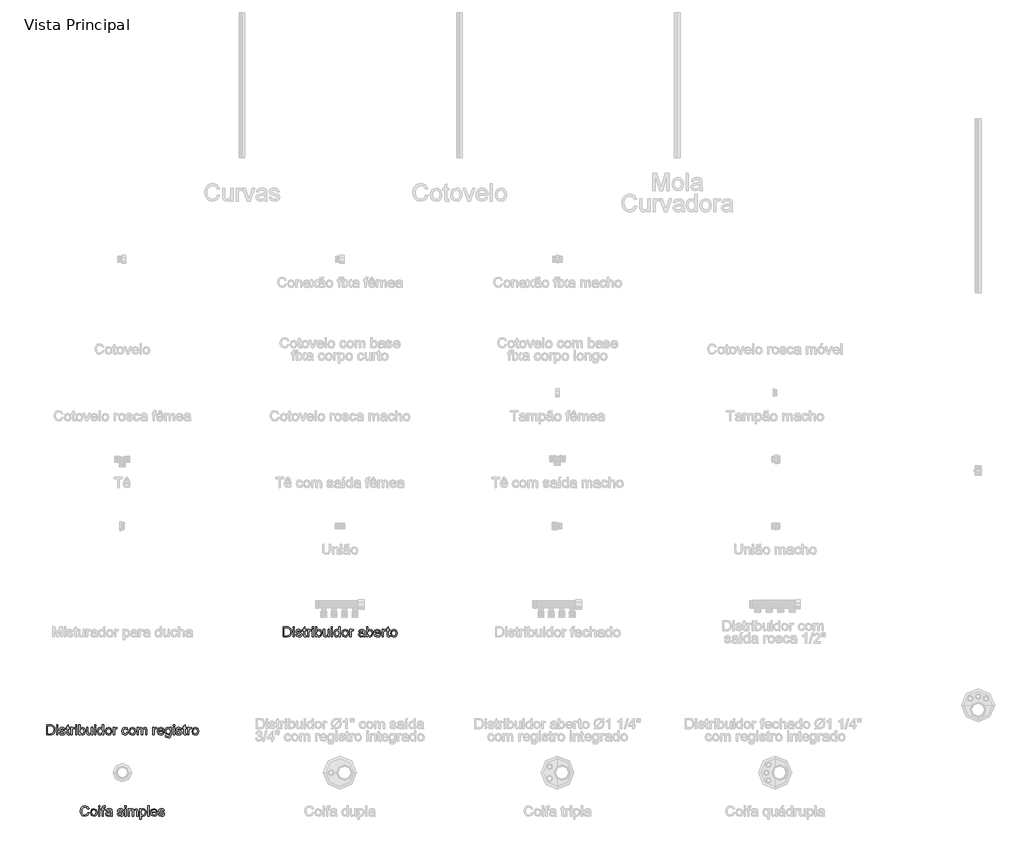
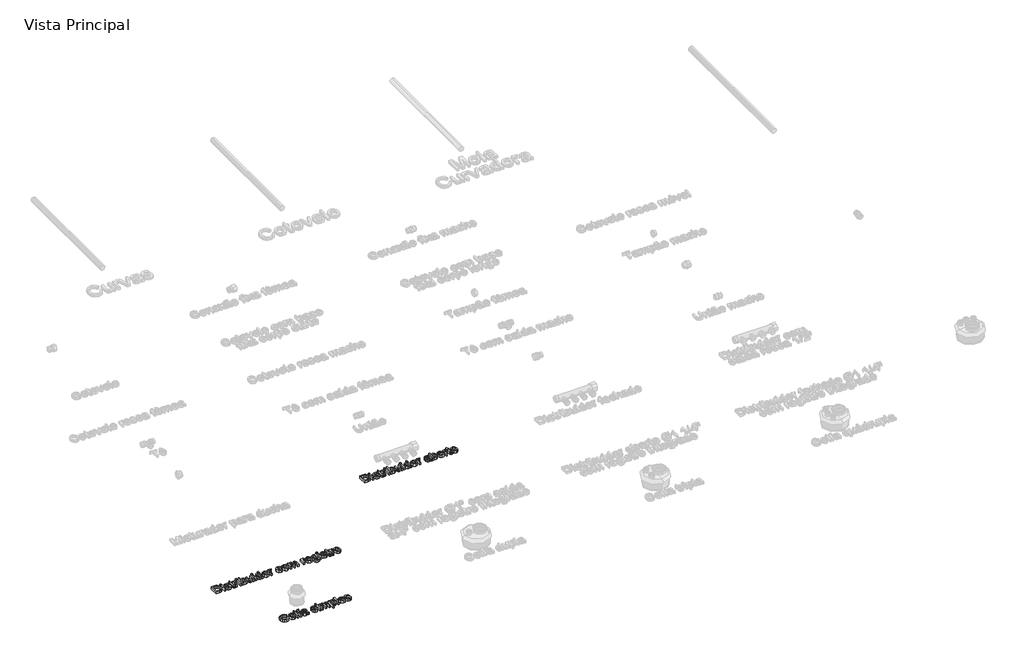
# One storey, part 2 of 12: 3 proxies.
"""IFC4 building model written with IfcOpenShell, lengths in millimetres."""

import ifcopenshell
import ifcopenshell.guid

model = None  # the IFC model being written
_history = None  # IfcOwnerHistory: only IFC2X3 demands one
_inside = {}  # id of a spatial element -> (the spatial element, [elements in it])
_under = {}  # id of a project, library or spatial element -> (it, [spatial elements below it])
_declared = {}  # id of a project -> (the project, [libraries it declares])
_typed = {}  # id of a type object -> (the type object, [elements of that type])
_made_of = {}  # id of a material, layer set ... -> (it, [elements and type objects made of it])


def new_model(schema):
    """Start an empty IFC model of exactly this schema.

    Asked for "IFC4X3", IfcOpenShell would pick the latest addendum, in which some entities
    have other attributes; the version numbers below select the first issue.
    IFC2X3 requires an IfcOwnerHistory on every rooted entity: one is made here for all.
    """
    global model, _history
    if schema == "IFC4X3":
        model = ifcopenshell.file(schema_version=(4, 3, 0, 0))
    else:
        model = ifcopenshell.file(schema=schema)
    _inside.clear()
    _under.clear()
    _declared.clear()
    _typed.clear()
    _made_of.clear()
    _history = None
    if model.schema == "IFC2X3":
        org = make("IfcOrganization", Name="unknown")
        user = make(
            "IfcPersonAndOrganization",
            ThePerson=make("IfcPerson", FamilyName="unknown"),
            TheOrganization=org,
        )
        app = make(
            "IfcApplication",
            ApplicationDeveloper=org,
            Version="unknown",
            ApplicationFullName="unknown",
            ApplicationIdentifier="unknown",
        )
        _history = make(
            "IfcOwnerHistory",
            OwningUser=user,
            OwningApplication=app,
            ChangeAction="ADDED",
            CreationDate=0,
        )
    return model


def make(cls, **values):
    """One entity of the class cls with the attributes given. An attribute that is None is left unset."""
    return model.create_entity(
        cls, **{name: value for name, value in values.items() if value is not None}
    )


def rooted(cls, **values):
    """An entity with a GlobalId (a new one), such as an element, a storey or a relation."""
    return make(cls, GlobalId=ifcopenshell.guid.new(), OwnerHistory=_history, **values)


def si_unit(unit_type, name, prefix=None):
    """IfcSIUnit, for example si_unit("LENGTHUNIT", "METRE", prefix="MILLI")."""
    return make("IfcSIUnit", UnitType=unit_type, Prefix=prefix, Name=name)


def assignment(units):
    """IfcUnitAssignment: the units of a project."""
    return None if units is None else make("IfcUnitAssignment", Units=units)


def point(xyz):
    """IfcCartesianPoint."""
    return None if xyz is None else make("IfcCartesianPoint", Coordinates=xyz)


def direction(xyz):
    """IfcDirection."""
    return None if xyz is None else make("IfcDirection", DirectionRatios=xyz)


def frame(location, z_axis=None, x_axis=None):
    """IfcAxis2Placement3D, a coordinate frame: its origin and axes. An axis left out is left unset."""
    return make(
        "IfcAxis2Placement3D",
        Location=point(location),
        Axis=direction(z_axis),
        RefDirection=direction(x_axis),
    )


def origin():
    """The frame at (0, 0, 0) with its axes left unset."""
    return frame((0.0, 0.0, 0.0))


def origin_with_axes():
    """The frame at (0, 0, 0) with the z axis (0, 0, 1) and the x axis (1, 0, 0) written out."""
    return frame((0.0, 0.0, 0.0), z_axis=(0.0, 0.0, 1.0), x_axis=(1.0, 0.0, 0.0))


def place(relative_to, where):
    """IfcLocalPlacement: puts the frame where relative to a parent placement (None: the world)."""
    return make(
        "IfcLocalPlacement", PlacementRelTo=relative_to, RelativePlacement=where
    )


def context(
    kind, dimensions, precision=None, world=None, true_north=None, identifier=None
):
    """IfcGeometricRepresentationContext, for example the 3D "Model" context."""
    return make(
        "IfcGeometricRepresentationContext",
        ContextIdentifier=identifier,
        ContextType=kind,
        CoordinateSpaceDimension=dimensions,
        Precision=precision,
        WorldCoordinateSystem=world,
        TrueNorth=true_north,
    )


def project(units=None, contexts=None):
    """IfcProject with its units and contexts."""
    return rooted(
        "IfcProject",
        Name="project",
        RepresentationContexts=contexts,
        UnitsInContext=assignment(units),
    )


def spatial(cls, under=None, at=None, **own):
    """A site, building, storey or space (cls), placed at a placement, below another one or the project."""
    s = rooted(cls, ObjectPlacement=at, **own)
    if under is not None:
        _under.setdefault(under.id(), (under, []))[1].append(s)
    return s


def polyline(points):
    """IfcPolyline through the points."""
    return make("IfcPolyline", Points=[point(p) for p in points])


def outline(outer, holes=None, kind="AREA"):
    """IfcArbitraryClosedProfileDef: a profile drawn as a closed curve; with holes, ...WithVoids."""
    if holes is None:
        return make("IfcArbitraryClosedProfileDef", ProfileType=kind, OuterCurve=outer)
    return make(
        "IfcArbitraryProfileDefWithVoids",
        ProfileType=kind,
        OuterCurve=outer,
        InnerCurves=holes,
    )


def extrude(swept, where, along, depth):
    """IfcExtrudedAreaSolid: the profile swept, set in the frame where, extruded along a direction by depth."""
    return make(
        "IfcExtrudedAreaSolid",
        SweptArea=swept,
        Position=where,
        ExtrudedDirection=direction(along),
        Depth=depth,
    )


def shape(context_of_items, identifier, shape_type, items):
    """IfcShapeRepresentation: the items that make up one representation, for example the "Body"."""
    return make(
        "IfcShapeRepresentation",
        ContextOfItems=context_of_items,
        RepresentationIdentifier=identifier,
        RepresentationType=shape_type,
        Items=items,
    )


def made_of(thing, what):
    """Note that an element or type object is made of a material, layer set ...; save() writes the relation."""
    if what is not None:
        _made_of.setdefault(what.id(), (what, []))[1].append(thing)
    return thing


def element(
    cls,
    number,
    at=None,
    inside=None,
    cuts=None,
    type_object=None,
    material=None,
    context=None,
    identifier="Body",
    shape_type=None,
    held_by="IfcProductDefinitionShape",
    body=None,
    shapes=None,
    **own,
):
    """One element of the class cls, such as IfcWall. Its Tag is "e" and its number.

    at: its placement. inside: the storey or other place that contains it. cuts: it is an
    opening in that element (IfcRelVoidsElement). A single representation is given by context,
    identifier, shape_type and body (its items); several are given by shapes. held_by: the class
    of the entity that holds the representations. save() writes the other relations.
    """
    e = rooted(cls, Tag="e%d" % number, ObjectPlacement=at, **own)
    if body is not None:
        shapes = [shape(context, identifier, shape_type, body)]
    if shapes is not None:
        e.Representation = make(held_by, Representations=shapes)
    if inside is not None:
        _inside.setdefault(inside.id(), (inside, []))[1].append(e)
    if cuts is not None:
        rooted(
            "IfcRelVoidsElement", RelatingBuildingElement=cuts, RelatedOpeningElement=e
        )
    if type_object is not None:
        _typed.setdefault(type_object.id(), (type_object, []))[1].append(e)
    return made_of(e, material)


def aggregate(whole, parts):
    """IfcRelAggregates: a whole, such as a stair, and the parts it consists of."""
    return rooted("IfcRelAggregates", RelatingObject=whole, RelatedObjects=parts)


def save(model, path):
    """Write the relations noted so far, then the file.

    IfcRelAggregates (storeys below a building ...), IfcRelContainedInSpatialStructure (elements
    in a storey), IfcRelDefinesByType, IfcRelAssociatesMaterial and IfcRelDeclares: one each for
    every whole, place, type object, material and project.
    """
    for whole, parts in _under.values():
        aggregate(whole, parts)
    for where, things in _inside.values():
        rooted(
            "IfcRelContainedInSpatialStructure",
            RelatedElements=things,
            RelatingStructure=where,
        )
    for kind, things in _typed.values():
        rooted("IfcRelDefinesByType", RelatedObjects=things, RelatingType=kind)
    for what, things in _made_of.values():
        rooted("IfcRelAssociatesMaterial", RelatedObjects=things, RelatingMaterial=what)
    for by, libraries in _declared.values():
        rooted("IfcRelDeclares", RelatingContext=by, RelatedDefinitions=libraries)
    model.write(path)


model = new_model("IFC4")

# Units and contexts
model_context = context("Model", 3, world=origin())
ifc_project = project(units=[si_unit("LENGTHUNIT", "METRE", prefix="MILLI")], contexts=[model_context])

# Site, building, storey
site = spatial("IfcSite", under=ifc_project)
building = spatial("IfcBuilding", under=site)
storey = spatial("IfcBuildingStorey", under=building, Name="Vista Principal", Elevation=0.0)

# Proxies
placement = place(None, origin())
element("IfcBuildingElementProxy", 1, Name="Legenda", ObjectType="Legenda", at=placement, inside=storey, context=model_context, shape_type="SweptSolid", body=[
    extrude(outline(polyline([(-526.4387958, -1231.7668427), (-526.4387958, -1196.6071341), (-514.3097265, -1196.6071341), (-508.0348859, -1197.113585), (-502.8673701, -1199.6286716), (-498.7041722, -1205.6374108), (-497.3221622, -1213.9981423), (-498.2578087, -1221.0927466), (-500.6613044, -1226.2130508), (-503.871688, -1229.4019746), (-508.0735135, -1231.1659688), (-513.7260204, -1231.7668427), (-526.4387958, -1231.7668427)]), holes=[polyline([(-522.0438323, -1227.3718791), (-514.2668069, -1227.3718791), (-508.6100081, -1226.7366695), (-505.3481211, -1224.9426317), (-502.6742321, -1220.5777118), (-501.7171258, -1213.929471), (-503.5927108, -1205.6030752), (-508.1550607, -1201.7059786), (-514.3869817, -1201.0020977), (-522.0438323, -1201.0020977), (-522.0438323, -1227.3718791)])]), origin_with_axes(), (0.0, 0.0, 1.0), 10.0),
    extrude(outline(polyline([(-491.8284577, -1231.7668427), (-491.8284577, -1205.9464317), (-487.4334942, -1205.9464317), (-487.4334942, -1231.7668427), (-491.8284577, -1231.7668427)])), origin_with_axes(), (0.0, 0.0, 1.0), 10.0),
    extrude(outline(polyline([(-491.8284577, -1201.0020977), (-491.8284577, -1196.6071341), (-487.4334942, -1196.6071341), (-487.4334942, -1201.0020977), (-491.8284577, -1201.0020977)])), origin_with_axes(), (0.0, 0.0, 1.0), 10.0),
    extrude(outline(polyline([(-482.4891601, -1224.0756564), (-478.0941966, -1223.526286), (-476.0598091, -1226.788173), (-471.3987443, -1227.9212496), (-466.9179416, -1226.8825961), (-465.4586763, -1224.4447647), (-466.9265255, -1222.4704647), (-471.4502477, -1221.2172133), (-478.0684448, -1219.0669431), (-480.9569316, -1216.5561485), (-481.9397897, -1213.0109923), (-481.1500697, -1209.7362294), (-478.9955075, -1207.2340187), (-476.2014437, -1205.9335558), (-472.4202299, -1205.3970613), (-467.072452, -1206.2597445), (-463.6732224, -1208.5945689), (-462.1624536, -1212.5388771), (-466.5574172, -1213.0882475), (-468.2098205, -1210.663292), (-472.0768734, -1209.7920248), (-476.2829909, -1210.6246644), (-477.5448261, -1212.5646288), (-475.38168, -1214.8136141), (-471.5961743, -1215.7492606), (-465.1453635, -1217.8179837), (-462.1495778, -1220.161392), (-461.0637127, -1223.9812334), (-462.3384239, -1228.1873509), (-466.0166307, -1231.238932), (-471.4588317, -1232.3162131), (-479.1242662, -1230.2389061), (-482.4891601, -1224.0756564)])), origin_with_axes(), (0.0, 0.0, 1.0), 10.0),
    extrude(outline(polyline([(-446.7800812, -1228.1015117), (-446.2307107, -1231.8956014), (-449.5183495, -1232.3162131), (-453.2008482, -1231.5865805), (-455.0378057, -1229.6723679), (-455.5700083, -1224.6851143), (-455.5700083, -1210.3413953), (-458.866231, -1210.3413953), (-458.866231, -1205.9464317), (-455.5700083, -1205.9464317), (-455.5700083, -1199.6715911), (-451.1750447, -1197.0878333), (-451.1750447, -1205.9464317), (-446.7800812, -1205.9464317), (-446.7800812, -1210.3413953), (-451.1750447, -1210.3413953), (-451.1750447, -1224.5563556), (-450.9432791, -1226.8225087), (-446.7800812, -1228.1015117)])), origin_with_axes(), (0.0, 0.0, 1.0), 10.0),
    extrude(outline(polyline([(-442.3851176, -1231.7668427), (-442.3851176, -1205.9464317), (-438.5395245, -1205.9464317), (-438.5395245, -1209.7662731), (-435.8098401, -1206.2468687), (-433.0629878, -1205.3970613), (-428.6508564, -1206.7533196), (-430.1187056, -1210.6933357), (-433.2089143, -1209.7920248), (-435.6939572, -1210.6590001), (-437.2776892, -1213.0624958), (-437.990154, -1218.1956759), (-437.990154, -1231.7668427), (-442.3851176, -1231.7668427)])), origin_with_axes(), (0.0, 0.0, 1.0), 10.0),
    extrude(outline(polyline([(-425.9040042, -1231.7668427), (-425.9040042, -1205.9464317), (-421.5090406, -1205.9464317), (-421.5090406, -1231.7668427), (-425.9040042, -1231.7668427)])), origin_with_axes(), (0.0, 0.0, 1.0), 10.0),
    extrude(outline(polyline([(-425.9040042, -1201.0020977), (-425.9040042, -1196.6071341), (-421.5090406, -1196.6071341), (-421.5090406, -1201.0020977), (-425.9040042, -1201.0020977)])), origin_with_axes(), (0.0, 0.0, 1.0), 10.0),
    extrude(outline(polyline([(-410.5216317, -1231.7668427), (-414.9165953, -1231.7668427), (-414.9165953, -1196.6071341), (-410.5216317, -1196.6071341), (-410.5216317, -1209.6460983), (-403.6201655, -1205.3970613), (-399.216618, -1206.3541676), (-395.8002205, -1209.0452244), (-393.7014537, -1213.2298821), (-392.9417774, -1218.4703611), (-396.0877816, -1228.7023857), (-403.6459172, -1232.3162131), (-410.5216317, -1227.6551482), (-410.5216317, -1231.7668427)]), holes=[polyline([(-410.5216317, -1218.676375), (-409.3198839, -1224.8224569), (-404.0236094, -1227.9212496), (-399.319625, -1225.6379286), (-397.336741, -1218.8308855), (-399.2380778, -1211.9980905), (-403.8347633, -1209.7920248), (-408.5387478, -1212.0753458), (-410.5216317, -1218.676375)])]), origin_with_axes(), (0.0, 0.0, 1.0), 10.0),
    extrude(outline(polyline([(-371.51633, -1231.7668427), (-371.51633, -1227.3289595), (-379.4478658, -1232.3162131), (-383.5810201, -1231.440654), (-386.4308793, -1229.2431722), (-387.739926, -1226.0070369), (-387.9974434, -1221.9210942), (-387.9974434, -1205.9464317), (-383.6024798, -1205.9464317), (-383.6024798, -1219.8523711), (-383.3363785, -1224.3331738), (-381.5981361, -1226.9641432), (-378.3233732, -1227.9212496), (-374.6537503, -1226.9426835), (-372.2287948, -1224.2773784), (-371.51633, -1219.3802559), (-371.51633, -1205.9464317), (-367.1213665, -1205.9464317), (-367.1213665, -1231.7668427), (-371.51633, -1231.7668427)])), origin_with_axes(), (0.0, 0.0, 1.0), 10.0),
    extrude(outline(polyline([(-361.0782916, -1201.0020977), (-361.0782916, -1196.6071341), (-356.683328, -1196.6071341), (-356.683328, -1201.0020977), (-361.0782916, -1201.0020977)])), origin_with_axes(), (0.0, 0.0, 1.0), 10.0),
    extrude(outline(polyline([(-361.0782916, -1231.7668427), (-361.0782916, -1205.9464317), (-356.683328, -1205.9464317), (-356.683328, -1231.7668427), (-361.0782916, -1231.7668427)])), origin_with_axes(), (0.0, 0.0, 1.0), 10.0),
    extrude(outline(polyline([(-334.1591397, -1231.7668427), (-334.1591397, -1227.6208126), (-341.0863577, -1232.3162131), (-346.5285586, -1230.6165983), (-350.3741518, -1225.8739863), (-351.738994, -1218.8823889), (-350.4814507, -1211.8864997), (-346.7131128, -1207.0709243), (-341.1035255, -1205.3970613), (-337.0519184, -1206.5945172), (-334.1591397, -1209.7061857), (-334.1591397, -1196.6071341), (-329.7641761, -1196.6071341), (-329.7641761, -1231.7668427), (-334.1591397, -1231.7668427)]), holes=[polyline([(-347.3440304, -1218.8652211), (-345.3611464, -1225.6679723), (-340.6829137, -1227.9212496), (-336.0604765, -1225.7709793), (-334.1591397, -1219.1999937), (-336.0948121, -1212.0667618), (-340.8631759, -1209.7920248), (-345.4899051, -1211.9766308), (-347.3440304, -1218.8652211)])]), origin_with_axes(), (0.0, 0.0, 1.0), 10.0),
    extrude(outline(polyline([(-324.2704717, -1218.8566372), (-320.4677981, -1208.2555044), (-312.7251084, -1205.3970613), (-304.4201723, -1208.8778381), (-301.1969129, -1218.4961128), (-302.6218425, -1226.3160578), (-306.7721646, -1230.7410651), (-312.7251084, -1232.3162131), (-321.0815479, -1228.8483122), (-324.2704717, -1218.8566372)]), holes=[polyline([(-319.8755081, -1218.8480533), (-317.8411207, -1225.6593884), (-312.7251084, -1227.9212496), (-307.6262639, -1225.6465126), (-305.5918765, -1218.7107107), (-307.6391398, -1212.053886), (-312.7251084, -1209.7920248), (-317.8411207, -1212.0453021), (-319.8755081, -1218.8480533)])]), origin_with_axes(), (0.0, 0.0, 1.0), 10.0),
    extrude(outline(polyline([(-296.2525789, -1231.7668427), (-296.2525789, -1205.9464317), (-292.4069858, -1205.9464317), (-292.4069858, -1209.7662731), (-289.6773014, -1206.2468687), (-286.9304492, -1205.3970613), (-282.5183178, -1206.7533196), (-283.9861669, -1210.6933357), (-287.0763757, -1209.7920248), (-289.5614186, -1210.6590001), (-291.1451505, -1213.0624958), (-291.8576153, -1218.1956759), (-291.8576153, -1231.7668427), (-296.2525789, -1231.7668427)])), origin_with_axes(), (0.0, 0.0, 1.0), 10.0),
    extrude(outline(polyline([(-249.556091, -1228.47062), (-253.8180039, -1231.4492379), (-258.5262803, -1232.3162131), (-264.9084198, -1230.2303222), (-267.1359453, -1224.8997121), (-266.2947218, -1221.4232273), (-264.0843641, -1218.8995568), (-261.0070312, -1217.4574593), (-257.2043577, -1216.796498), (-249.5818427, -1215.2857293), (-250.7664228, -1211.062444), (-255.6249176, -1209.7920248), (-260.0713847, -1210.6375403), (-262.1916113, -1213.637618), (-266.5865748, -1213.0882475), (-264.685238, -1208.7962909), (-260.8568127, -1206.2812043), (-255.0583794, -1205.3970613), (-249.7320612, -1206.1781974), (-246.7233996, -1208.1396215), (-245.3757253, -1211.1225314), (-245.1611274, -1214.9681245), (-245.1611274, -1220.4360772), (-244.9379457, -1228.071468), (-244.0623865, -1231.7668427), (-248.4573501, -1231.7668427), (-249.556091, -1228.47062)]), holes=[polyline([(-249.5689669, -1220.3030266), (-256.6464033, -1221.0283672), (-260.4276171, -1221.740832), (-262.1401078, -1222.8996603), (-262.7409817, -1224.5906912), (-261.4319349, -1226.9684352), (-257.5906338, -1227.9212496), (-253.1441667, -1226.8697202), (-250.2771397, -1224.3245899), (-249.5689669, -1220.3030266)])]), origin_with_axes(), (0.0, 0.0, 1.0), 10.0),
    extrude(outline(polyline([(-234.7230889, -1231.7668427), (-239.1180525, -1231.7668427), (-239.1180525, -1196.6071341), (-234.7230889, -1196.6071341), (-234.7230889, -1209.6460983), (-227.8216227, -1205.3970613), (-223.4180752, -1206.3541676), (-220.0016778, -1209.0452244), (-217.902911, -1213.2298821), (-217.1432347, -1218.4703611), (-220.2892389, -1228.7023857), (-227.8473745, -1232.3162131), (-234.7230889, -1227.6551482), (-234.7230889, -1231.7668427)]), holes=[polyline([(-234.7230889, -1218.676375), (-233.5213411, -1224.8224569), (-228.2250666, -1227.9212496), (-223.5210822, -1225.6379286), (-221.5381982, -1218.8308855), (-223.439535, -1211.9980905), (-228.0362205, -1209.7920248), (-232.740205, -1212.0753458), (-234.7230889, -1218.676375)])]), origin_with_axes(), (0.0, 0.0, 1.0), 10.0),
    extrude(outline(polyline([(-194.1211794, -1224.0756564), (-189.812055, -1224.6250269), (-193.8422022, -1230.2989935), (-201.3488343, -1232.3162131), (-210.4735341, -1228.8354363), (-213.847012, -1219.071235), (-210.4391984, -1208.985137), (-201.5977678, -1205.3970613), (-193.0095626, -1208.9765531), (-189.6747124, -1219.0454833), (-209.4520484, -1220.2300633), (-206.924086, -1225.9383656), (-201.2629952, -1227.9212496), (-196.9538708, -1227.0027708), (-194.1211794, -1224.0756564)]), holes=[polyline([(-209.4520484, -1215.8350997), (-194.0696759, -1215.8350997), (-195.8293781, -1211.852164), (-201.6149357, -1209.7920248), (-207.0270929, -1211.4358442), (-209.4520484, -1215.8350997)])]), origin_with_axes(), (0.0, 0.0, 1.0), 10.0),
    extrude(outline(polyline([(-185.2797488, -1231.7668427), (-185.2797488, -1205.9464317), (-181.4341557, -1205.9464317), (-181.4341557, -1209.7662731), (-178.7044713, -1206.2468687), (-175.957619, -1205.3970613), (-171.5454876, -1206.7533196), (-173.0133368, -1210.6933357), (-176.1035456, -1209.7920248), (-178.5885884, -1210.6590001), (-180.1723204, -1213.0624958), (-180.8847852, -1218.1956759), (-180.8847852, -1231.7668427), (-185.2797488, -1231.7668427)])), origin_with_axes(), (0.0, 0.0, 1.0), 10.0),
    extrude(outline(polyline([(-159.4593378, -1228.1015117), (-158.9099674, -1231.8956014), (-162.1976061, -1232.3162131), (-165.8801049, -1231.5865805), (-167.7170623, -1229.6723679), (-168.249265, -1224.6851143), (-168.249265, -1210.3413953), (-171.5454876, -1210.3413953), (-171.5454876, -1205.9464317), (-168.249265, -1205.9464317), (-168.249265, -1199.6715911), (-163.8543014, -1197.0878333), (-163.8543014, -1205.9464317), (-159.4593378, -1205.9464317), (-159.4593378, -1210.3413953), (-163.8543014, -1210.3413953), (-163.8543014, -1224.5563556), (-163.6225357, -1226.8225087), (-159.4593378, -1228.1015117)])), origin_with_axes(), (0.0, 0.0, 1.0), 10.0),
    extrude(outline(polyline([(-156.1631151, -1218.8566372), (-152.3604416, -1208.2555044), (-144.6177519, -1205.3970613), (-136.3128158, -1208.8778381), (-133.0895564, -1218.4961128), (-134.514486, -1226.3160578), (-138.664808, -1230.7410651), (-144.6177519, -1232.3162131), (-152.9741914, -1228.8483122), (-156.1631151, -1218.8566372)]), holes=[polyline([(-151.7681516, -1218.8480533), (-149.7337641, -1225.6593884), (-144.6177519, -1227.9212496), (-139.5189074, -1225.6465126), (-137.48452, -1218.7107107), (-139.5317833, -1212.053886), (-144.6177519, -1209.7920248), (-149.7337641, -1212.0453021), (-151.7681516, -1218.8480533)])]), origin_with_axes(), (0.0, 0.0, 1.0), 10.0),
])
element("IfcBuildingElementProxy", 2, Name="Legenda", ObjectType="Legenda", at=placement, inside=storey, context=model_context, shape_type="SweptSolid", body=[
    extrude(outline(polyline([(-1342.0885642, -1569.6668427), (-1342.0885642, -1534.5071341), (-1329.9594948, -1534.5071341), (-1323.6846542, -1535.013585), (-1318.5171384, -1537.5286716), (-1314.3539405, -1543.5374108), (-1312.9719305, -1551.8981423), (-1313.907577, -1558.9927466), (-1316.3110727, -1564.1130508), (-1319.5214563, -1567.3019746), (-1323.7232818, -1569.0659688), (-1329.3757887, -1569.6668427), (-1342.0885642, -1569.6668427)]), holes=[polyline([(-1337.6936006, -1565.2718791), (-1329.9165752, -1565.2718791), (-1324.2597764, -1564.6366695), (-1320.9978894, -1562.8426317), (-1318.3240004, -1558.4777118), (-1317.3668941, -1551.829471), (-1319.2424791, -1543.5030752), (-1323.804829, -1539.6059786), (-1330.03675, -1538.9020977), (-1337.6936006, -1538.9020977), (-1337.6936006, -1565.2718791)])]), origin_with_axes(), (0.0, 0.0, 1.0), 10.0),
    extrude(outline(polyline([(-1307.478226, -1569.6668427), (-1307.478226, -1543.8464317), (-1303.0832625, -1543.8464317), (-1303.0832625, -1569.6668427), (-1307.478226, -1569.6668427)])), origin_with_axes(), (0.0, 0.0, 1.0), 10.0),
    extrude(outline(polyline([(-1307.478226, -1538.9020977), (-1307.478226, -1534.5071341), (-1303.0832625, -1534.5071341), (-1303.0832625, -1538.9020977), (-1307.478226, -1538.9020977)])), origin_with_axes(), (0.0, 0.0, 1.0), 10.0),
    extrude(outline(polyline([(-1298.1389285, -1561.9756564), (-1293.7439649, -1561.426286), (-1291.7095775, -1564.688173), (-1287.0485126, -1565.8212496), (-1282.5677099, -1564.7825961), (-1281.1084446, -1562.3447647), (-1282.5762938, -1560.3704647), (-1287.1000161, -1559.1172133), (-1293.7182132, -1556.9669431), (-1296.6067, -1554.4561485), (-1297.589558, -1550.9109923), (-1296.799838, -1547.6362294), (-1294.6452758, -1545.1340187), (-1291.851212, -1543.8335558), (-1288.0699983, -1543.2970613), (-1282.7222203, -1544.1597445), (-1279.3229907, -1546.4945689), (-1277.812222, -1550.4388771), (-1282.2071855, -1550.9882475), (-1283.8595888, -1548.563292), (-1287.7266417, -1547.6920248), (-1291.9327592, -1548.5246644), (-1293.1945944, -1550.4646288), (-1291.0314483, -1552.7136141), (-1287.2459426, -1553.6492606), (-1280.7951318, -1555.7179837), (-1277.7993461, -1558.061392), (-1276.7134811, -1561.8812334), (-1277.9881922, -1566.0873509), (-1281.666399, -1569.138932), (-1287.1086, -1570.2162131), (-1294.7740345, -1568.1389061), (-1298.1389285, -1561.9756564)])), origin_with_axes(), (0.0, 0.0, 1.0), 10.0),
    extrude(outline(polyline([(-1262.4298495, -1566.0015117), (-1261.880479, -1569.7956014), (-1265.1681178, -1570.2162131), (-1268.8506166, -1569.4865805), (-1270.687574, -1567.5723679), (-1271.2197766, -1562.5851143), (-1271.2197766, -1548.2413953), (-1274.5159993, -1548.2413953), (-1274.5159993, -1543.8464317), (-1271.2197766, -1543.8464317), (-1271.2197766, -1537.5715911), (-1266.824813, -1534.9878333), (-1266.824813, -1543.8464317), (-1262.4298495, -1543.8464317), (-1262.4298495, -1548.2413953), (-1266.824813, -1548.2413953), (-1266.824813, -1562.4563556), (-1266.5930474, -1564.7225087), (-1262.4298495, -1566.0015117)])), origin_with_axes(), (0.0, 0.0, 1.0), 10.0),
    extrude(outline(polyline([(-1258.0348859, -1569.6668427), (-1258.0348859, -1543.8464317), (-1254.1892928, -1543.8464317), (-1254.1892928, -1547.6662731), (-1251.4596084, -1544.1468687), (-1248.7127561, -1543.2970613), (-1244.3006247, -1544.6533196), (-1245.7684739, -1548.5933357), (-1248.8586827, -1547.6920248), (-1251.3437255, -1548.5590001), (-1252.9274575, -1550.9624958), (-1253.6399223, -1556.0956759), (-1253.6399223, -1569.6668427), (-1258.0348859, -1569.6668427)])), origin_with_axes(), (0.0, 0.0, 1.0), 10.0),
    extrude(outline(polyline([(-1241.5537725, -1569.6668427), (-1241.5537725, -1543.8464317), (-1237.1588089, -1543.8464317), (-1237.1588089, -1569.6668427), (-1241.5537725, -1569.6668427)])), origin_with_axes(), (0.0, 0.0, 1.0), 10.0),
    extrude(outline(polyline([(-1241.5537725, -1538.9020977), (-1241.5537725, -1534.5071341), (-1237.1588089, -1534.5071341), (-1237.1588089, -1538.9020977), (-1241.5537725, -1538.9020977)])), origin_with_axes(), (0.0, 0.0, 1.0), 10.0),
    extrude(outline(polyline([(-1226.1714, -1569.6668427), (-1230.5663636, -1569.6668427), (-1230.5663636, -1534.5071341), (-1226.1714, -1534.5071341), (-1226.1714, -1547.5460983), (-1219.2699338, -1543.2970613), (-1214.8663863, -1544.2541676), (-1211.4499888, -1546.9452244), (-1209.3512221, -1551.1298821), (-1208.5915457, -1556.3703611), (-1211.7375499, -1566.6023857), (-1219.2956855, -1570.2162131), (-1226.1714, -1565.5551482), (-1226.1714, -1569.6668427)]), holes=[polyline([(-1226.1714, -1556.576375), (-1224.9696522, -1562.7224569), (-1219.6733777, -1565.8212496), (-1214.9693933, -1563.5379286), (-1212.9865093, -1556.7308855), (-1214.8878461, -1549.8980905), (-1219.4845316, -1547.6920248), (-1224.1885161, -1549.9753458), (-1226.1714, -1556.576375)])]), origin_with_axes(), (0.0, 0.0, 1.0), 10.0),
    extrude(outline(polyline([(-1187.1660983, -1569.6668427), (-1187.1660983, -1565.2289595), (-1195.0976342, -1570.2162131), (-1199.2307884, -1569.340654), (-1202.0806476, -1567.1431722), (-1203.3896943, -1563.9070369), (-1203.6472117, -1559.8210942), (-1203.6472117, -1543.8464317), (-1199.2522482, -1543.8464317), (-1199.2522482, -1557.7523711), (-1198.9861468, -1562.2331738), (-1197.2479044, -1564.8641432), (-1193.9731415, -1565.8212496), (-1190.3035186, -1564.8426835), (-1187.8785631, -1562.1773784), (-1187.1660983, -1557.2802559), (-1187.1660983, -1543.8464317), (-1182.7711348, -1543.8464317), (-1182.7711348, -1569.6668427), (-1187.1660983, -1569.6668427)])), origin_with_axes(), (0.0, 0.0, 1.0), 10.0),
    extrude(outline(polyline([(-1176.7280599, -1538.9020977), (-1176.7280599, -1534.5071341), (-1172.3330963, -1534.5071341), (-1172.3330963, -1538.9020977), (-1176.7280599, -1538.9020977)])), origin_with_axes(), (0.0, 0.0, 1.0), 10.0),
    extrude(outline(polyline([(-1176.7280599, -1569.6668427), (-1176.7280599, -1543.8464317), (-1172.3330963, -1543.8464317), (-1172.3330963, -1569.6668427), (-1176.7280599, -1569.6668427)])), origin_with_axes(), (0.0, 0.0, 1.0), 10.0),
    extrude(outline(polyline([(-1149.808908, -1569.6668427), (-1149.808908, -1565.5208126), (-1156.736126, -1570.2162131), (-1162.178327, -1568.5165983), (-1166.0239201, -1563.7739863), (-1167.3887623, -1556.7823889), (-1166.131219, -1549.7864997), (-1162.3628811, -1544.9709243), (-1156.7532938, -1543.2970613), (-1152.7016868, -1544.4945172), (-1149.808908, -1547.6061857), (-1149.808908, -1534.5071341), (-1145.4139444, -1534.5071341), (-1145.4139444, -1569.6668427), (-1149.808908, -1569.6668427)]), holes=[polyline([(-1162.9937987, -1556.7652211), (-1161.0109148, -1563.5679723), (-1156.3326821, -1565.8212496), (-1151.7102448, -1563.6709793), (-1149.808908, -1557.0999937), (-1151.7445804, -1549.9667618), (-1156.5129442, -1547.6920248), (-1161.1396735, -1549.8766308), (-1162.9937987, -1556.7652211)])]), origin_with_axes(), (0.0, 0.0, 1.0), 10.0),
    extrude(outline(polyline([(-1139.92024, -1556.7566372), (-1136.1175664, -1546.1555044), (-1128.3748767, -1543.2970613), (-1120.0699407, -1546.7778381), (-1116.8466812, -1556.3961128), (-1118.2716108, -1564.2160578), (-1122.4219329, -1568.6410651), (-1128.3748767, -1570.2162131), (-1136.7313162, -1566.7483122), (-1139.92024, -1556.7566372)]), holes=[polyline([(-1135.5252764, -1556.7480533), (-1133.490889, -1563.5593884), (-1128.3748767, -1565.8212496), (-1123.2760322, -1563.5465126), (-1121.2416448, -1556.6107107), (-1123.2889081, -1549.953886), (-1128.3748767, -1547.6920248), (-1133.490889, -1549.9453021), (-1135.5252764, -1556.7480533)])]), origin_with_axes(), (0.0, 0.0, 1.0), 10.0),
    extrude(outline(polyline([(-1111.9023472, -1569.6668427), (-1111.9023472, -1543.8464317), (-1108.0567541, -1543.8464317), (-1108.0567541, -1547.6662731), (-1105.3270697, -1544.1468687), (-1102.5802175, -1543.2970613), (-1098.1680861, -1544.6533196), (-1099.6359352, -1548.5933357), (-1102.726144, -1547.6920248), (-1105.2111869, -1548.5590001), (-1106.7949189, -1550.9624958), (-1107.5073837, -1556.0956759), (-1107.5073837, -1569.6668427), (-1111.9023472, -1569.6668427)])), origin_with_axes(), (0.0, 0.0, 1.0), 10.0),
    extrude(outline(polyline([(-1065.2058593, -1560.3275451), (-1060.8108957, -1560.8769155), (-1064.3388841, -1567.7397542), (-1071.3090216, -1570.2162131), (-1079.6397094, -1566.7611881), (-1082.7857136, -1556.8510602), (-1081.4423312, -1549.550442), (-1077.3478046, -1544.8593335), (-1071.369109, -1543.2970613), (-1064.6865326, -1545.4430396), (-1061.3602662, -1551.537618), (-1065.7552297, -1552.0869884), (-1067.7939091, -1548.7950577), (-1071.3347733, -1547.6920248), (-1076.4293258, -1549.8637549), (-1078.39075, -1556.7308855), (-1076.4722454, -1563.6623954), (-1071.4549481, -1565.8212496), (-1067.31321, -1564.4735752), (-1065.2058593, -1560.3275451)])), origin_with_axes(), (0.0, 0.0, 1.0), 10.0),
    extrude(outline(polyline([(-1058.0640435, -1556.7566372), (-1054.2613699, -1546.1555044), (-1046.5186802, -1543.2970613), (-1038.2137442, -1546.7778381), (-1034.9904848, -1556.3961128), (-1036.4154144, -1564.2160578), (-1040.5657364, -1568.6410651), (-1046.5186802, -1570.2162131), (-1054.8751197, -1566.7483122), (-1058.0640435, -1556.7566372)]), holes=[polyline([(-1053.6690799, -1556.7480533), (-1051.6346925, -1563.5593884), (-1046.5186802, -1565.8212496), (-1041.4198358, -1563.5465126), (-1039.3854483, -1556.6107107), (-1041.4327116, -1549.953886), (-1046.5186802, -1547.6920248), (-1051.6346925, -1549.9453021), (-1053.6690799, -1556.7480533)])]), origin_with_axes(), (0.0, 0.0, 1.0), 10.0),
    extrude(outline(polyline([(-1030.0461507, -1569.6668427), (-1030.0461507, -1543.8464317), (-1025.6511872, -1543.8464317), (-1025.6511872, -1548.0954688), (-1022.6296497, -1544.6146919), (-1018.3291092, -1543.2970613), (-1013.9255617, -1544.6404437), (-1011.5048982, -1548.4044896), (-1003.7450406, -1543.2970613), (-997.9981107, -1545.4215798), (-995.9851831, -1551.9668136), (-995.9851831, -1569.6668427), (-1000.3801467, -1569.6668427), (-1000.3801467, -1553.8552745), (-1000.7878825, -1550.1856516), (-1002.2643156, -1548.3787379), (-1004.7751102, -1547.6920248), (-1009.0971105, -1549.451727), (-1010.8181851, -1555.091358), (-1010.8181851, -1569.6668427), (-1015.2131487, -1569.6668427), (-1015.2131487, -1553.3659915), (-1016.2303424, -1549.1083705), (-1019.5651927, -1547.6920248), (-1022.8184958, -1548.6362553), (-1024.9816419, -1551.4002753), (-1025.6511872, -1556.6450463), (-1025.6511872, -1569.6668427), (-1030.0461507, -1569.6668427)])), origin_with_axes(), (0.0, 0.0, 1.0), 10.0),
    extrude(outline(polyline([(-975.6584766, -1569.6668427), (-975.6584766, -1543.8464317), (-971.8128835, -1543.8464317), (-971.8128835, -1547.6662731), (-969.0831991, -1544.1468687), (-966.3363468, -1543.2970613), (-961.9242154, -1544.6533196), (-963.3920646, -1548.5933357), (-966.4822733, -1547.6920248), (-968.9673162, -1548.5590001), (-970.5510482, -1550.9624958), (-971.263513, -1556.0956759), (-971.263513, -1569.6668427), (-975.6584766, -1569.6668427)])), origin_with_axes(), (0.0, 0.0, 1.0), 10.0),
    extrude(outline(polyline([(-941.099642, -1561.9756564), (-936.7905175, -1562.5250269), (-940.8206648, -1568.1989935), (-948.3272969, -1570.2162131), (-957.4519966, -1566.7354363), (-960.8254745, -1556.971235), (-957.417661, -1546.885137), (-948.5762304, -1543.2970613), (-939.9880252, -1546.8765531), (-936.6531749, -1556.9454833), (-956.430511, -1558.1300633), (-953.9025485, -1563.8383656), (-948.2414578, -1565.8212496), (-943.9323333, -1564.9027708), (-941.099642, -1561.9756564)]), holes=[polyline([(-956.430511, -1553.7350997), (-941.0481385, -1553.7350997), (-942.8078407, -1549.752164), (-948.5933982, -1547.6920248), (-954.0055555, -1549.3358442), (-956.430511, -1553.7350997)])]), origin_with_axes(), (0.0, 0.0, 1.0), 10.0),
    extrude(outline(polyline([(-933.3569522, -1571.8643245), (-928.9619887, -1572.4136949), (-927.5370591, -1574.7313515), (-923.2708542, -1575.7099176), (-918.7728837, -1574.6025928), (-916.6269054, -1571.4952162), (-916.3264684, -1566.37062), (-923.193599, -1569.6668427), (-931.103675, -1565.8298335), (-933.9063227, -1556.6278785), (-932.6487794, -1549.8165434), (-929.0092002, -1544.9966761), (-923.4081968, -1543.2970613), (-916.3264684, -1547.1426544), (-916.3264684, -1543.8464317), (-911.9315048, -1543.8464317), (-911.9315048, -1566.1388543), (-913.1332527, -1574.675556), (-916.9402182, -1578.6456159), (-923.3566933, -1580.1048812), (-930.6658954, -1578.0490339), (-933.3569522, -1571.8643245)]), holes=[polyline([(-929.5113591, -1556.3274415), (-927.6357741, -1563.1301928), (-922.9274977, -1565.2718791), (-918.2278052, -1563.1430686), (-916.3264684, -1556.4562002), (-918.2836006, -1549.9023825), (-922.996169, -1547.6920248), (-927.6100223, -1549.8680468), (-929.5113591, -1556.3274415)])]), origin_with_axes(), (0.0, 0.0, 1.0), 10.0),
    extrude(outline(polyline([(-905.3390595, -1538.9020977), (-905.3390595, -1534.5071341), (-900.9440959, -1534.5071341), (-900.9440959, -1538.9020977), (-905.3390595, -1538.9020977)])), origin_with_axes(), (0.0, 0.0, 1.0), 10.0),
    extrude(outline(polyline([(-905.3390595, -1569.6668427), (-905.3390595, -1543.8464317), (-900.9440959, -1543.8464317), (-900.9440959, -1569.6668427), (-905.3390595, -1569.6668427)])), origin_with_axes(), (0.0, 0.0, 1.0), 10.0),
    extrude(outline(polyline([(-895.9997619, -1561.9756564), (-891.6047983, -1561.426286), (-889.5704109, -1564.688173), (-884.909346, -1565.8212496), (-880.4285433, -1564.7825961), (-878.9692781, -1562.3447647), (-880.4371272, -1560.3704647), (-884.9608495, -1559.1172133), (-891.5790466, -1556.9669431), (-894.4675334, -1554.4561485), (-895.4503914, -1550.9109923), (-894.6606714, -1547.6362294), (-892.5061092, -1545.1340187), (-889.7120455, -1543.8335558), (-885.9308317, -1543.2970613), (-880.5830537, -1544.1597445), (-877.1838241, -1546.4945689), (-875.6730554, -1550.4388771), (-880.068019, -1550.9882475), (-881.7204223, -1548.563292), (-885.5874752, -1547.6920248), (-889.7935926, -1548.5246644), (-891.0554279, -1550.4646288), (-888.8922817, -1552.7136141), (-885.106776, -1553.6492606), (-878.6559652, -1555.7179837), (-875.6601795, -1558.061392), (-874.5743145, -1561.8812334), (-875.8490256, -1566.0873509), (-879.5272324, -1569.138932), (-884.9694334, -1570.2162131), (-892.6348679, -1568.1389061), (-895.9997619, -1561.9756564)])), origin_with_axes(), (0.0, 0.0, 1.0), 10.0),
    extrude(outline(polyline([(-860.2906829, -1566.0015117), (-859.7413124, -1569.7956014), (-863.0289512, -1570.2162131), (-866.71145, -1569.4865805), (-868.5484074, -1567.5723679), (-869.08061, -1562.5851143), (-869.08061, -1548.2413953), (-872.3768327, -1548.2413953), (-872.3768327, -1543.8464317), (-869.08061, -1543.8464317), (-869.08061, -1537.5715911), (-864.6856465, -1534.9878333), (-864.6856465, -1543.8464317), (-860.2906829, -1543.8464317), (-860.2906829, -1548.2413953), (-864.6856465, -1548.2413953), (-864.6856465, -1562.4563556), (-864.4538808, -1564.7225087), (-860.2906829, -1566.0015117)])), origin_with_axes(), (0.0, 0.0, 1.0), 10.0),
    extrude(outline(polyline([(-855.8957193, -1569.6668427), (-855.8957193, -1543.8464317), (-852.0501262, -1543.8464317), (-852.0501262, -1547.6662731), (-849.3204418, -1544.1468687), (-846.5735896, -1543.2970613), (-842.1614582, -1544.6533196), (-843.6293073, -1548.5933357), (-846.7195161, -1547.6920248), (-849.204559, -1548.5590001), (-850.788291, -1550.9624958), (-851.5007558, -1556.0956759), (-851.5007558, -1569.6668427), (-855.8957193, -1569.6668427)])), origin_with_axes(), (0.0, 0.0, 1.0), 10.0),
    extrude(outline(polyline([(-840.5133468, -1556.7566372), (-836.7106733, -1546.1555044), (-828.9679836, -1543.2970613), (-820.6630475, -1546.7778381), (-817.4397881, -1556.3961128), (-818.8647177, -1564.2160578), (-823.0150397, -1568.6410651), (-828.9679836, -1570.2162131), (-837.3244231, -1566.7483122), (-840.5133468, -1556.7566372)]), holes=[polyline([(-836.1183833, -1556.7480533), (-834.0839958, -1563.5593884), (-828.9679836, -1565.8212496), (-823.8691391, -1563.5465126), (-821.8347517, -1556.6107107), (-823.882015, -1549.953886), (-828.9679836, -1547.6920248), (-834.0839958, -1549.9453021), (-836.1183833, -1556.7480533)])]), origin_with_axes(), (0.0, 0.0, 1.0), 10.0),
])
element("IfcBuildingElementProxy", 3, Name="Legenda", ObjectType="Legenda", at=placement, inside=storey, context=model_context, shape_type="SweptSolid", body=[
    extrude(outline(polyline([(-1199.2522482, -1837.168665), (-1194.8572846, -1838.3017416), (-1200.0677199, -1847.164632), (-1209.2696749, -1850.2162131), (-1218.4158344, -1847.9071405), (-1223.7807802, -1841.2202721), (-1225.6220296, -1831.8208871), (-1223.5404306, -1822.2669917), (-1217.6218225, -1816.0736983), (-1209.1752518, -1813.9577637), (-1200.3724488, -1816.696032), (-1195.406655, -1824.4043861), (-1199.8016186, -1825.4516235), (-1203.4068622, -1820.0480501), (-1209.3469301, -1818.3527273), (-1216.2226446, -1820.2326042), (-1220.1068653, -1825.2799452), (-1221.227066, -1831.8123032), (-1219.9008514, -1839.3833146), (-1215.7719892, -1844.2203497), (-1209.7074545, -1845.8212496), (-1202.9819585, -1843.6409356), (-1199.2522482, -1837.168665)])), origin_with_axes(), (0.0, 0.0, 1.0), 10.0),
    extrude(outline(polyline([(-1190.462321, -1836.7566372), (-1186.6596475, -1826.1555044), (-1178.9169577, -1823.2970613), (-1170.6120217, -1826.7778381), (-1167.3887623, -1836.3961128), (-1168.8136919, -1844.2160578), (-1172.9640139, -1848.6410651), (-1178.9169577, -1850.2162131), (-1187.2733973, -1846.7483122), (-1190.462321, -1836.7566372)]), holes=[polyline([(-1186.0673575, -1836.7480533), (-1184.03297, -1843.5593884), (-1178.9169577, -1845.8212496), (-1173.8181133, -1843.5465126), (-1171.7837259, -1836.6107107), (-1173.8309892, -1829.953886), (-1178.9169577, -1827.6920248), (-1184.03297, -1829.9453021), (-1186.0673575, -1836.7480533)])]), origin_with_axes(), (0.0, 0.0, 1.0), 10.0),
    extrude(outline(polyline([(-1162.4444283, -1849.6668427), (-1162.4444283, -1823.8464317), (-1158.0494647, -1823.8464317), (-1158.0494647, -1849.6668427), (-1162.4444283, -1849.6668427)])), origin_with_axes(), (0.0, 0.0, 1.0), 10.0),
    extrude(outline(polyline([(-1162.4444283, -1818.9020977), (-1162.4444283, -1814.5071341), (-1158.0494647, -1814.5071341), (-1158.0494647, -1818.9020977), (-1162.4444283, -1818.9020977)])), origin_with_axes(), (0.0, 0.0, 1.0), 10.0),
    extrude(outline(polyline([(-1150.3582785, -1849.6668427), (-1150.3582785, -1828.2413953), (-1154.2038716, -1828.2413953), (-1154.2038716, -1823.8464317), (-1150.3582785, -1823.8464317), (-1150.3582785, -1821.245506), (-1149.8947471, -1817.5801751), (-1147.6457619, -1814.9620815), (-1143.2164627, -1813.9577637), (-1139.2077752, -1814.4384628), (-1139.8515687, -1818.5587412), (-1142.3838231, -1818.3527273), (-1145.1521351, -1819.0823599), (-1145.9633149, -1821.8034604), (-1145.9633149, -1823.8464317), (-1141.0189809, -1823.8464317), (-1141.0189809, -1828.2413953), (-1145.9633149, -1828.2413953), (-1145.9633149, -1849.6668427), (-1150.3582785, -1849.6668427)])), origin_with_axes(), (0.0, 0.0, 1.0), 10.0),
    extrude(outline(polyline([(-1120.6922744, -1846.37062), (-1124.9541873, -1849.3492379), (-1129.6624637, -1850.2162131), (-1136.0446032, -1848.1303222), (-1138.2721286, -1842.7997121), (-1137.4309051, -1839.3232273), (-1135.2205475, -1836.7995568), (-1132.1432146, -1835.3574593), (-1128.340541, -1834.696498), (-1120.7180261, -1833.1857293), (-1121.9026061, -1828.962444), (-1126.761101, -1827.6920248), (-1131.2075681, -1828.5375403), (-1133.3277946, -1831.537618), (-1137.7227582, -1830.9882475), (-1135.8214214, -1826.6962909), (-1131.9929961, -1824.1812043), (-1126.1945627, -1823.2970613), (-1120.8682446, -1824.0781974), (-1117.859583, -1826.0396215), (-1116.5119086, -1829.0225314), (-1116.2973108, -1832.8681245), (-1116.2973108, -1838.3360772), (-1116.074129, -1845.971468), (-1115.1985699, -1849.6668427), (-1119.5935335, -1849.6668427), (-1120.6922744, -1846.37062)]), holes=[polyline([(-1120.7051502, -1838.2030266), (-1127.7825867, -1838.9283672), (-1131.5638005, -1839.640832), (-1133.2762911, -1840.7996603), (-1133.8771651, -1842.4906912), (-1132.5681183, -1844.8684352), (-1128.7268171, -1845.8212496), (-1124.2803501, -1844.7697202), (-1121.4133231, -1842.2245899), (-1120.7051502, -1838.2030266)])]), origin_with_axes(), (0.0, 0.0, 1.0), 10.0),
    extrude(outline(polyline([(-1098.1680861, -1841.9756564), (-1093.7731225, -1841.426286), (-1091.7387351, -1844.688173), (-1087.0776702, -1845.8212496), (-1082.5968675, -1844.7825961), (-1081.1376022, -1842.3447647), (-1082.6054514, -1840.3704647), (-1087.1291737, -1839.1172133), (-1093.7473708, -1836.9669431), (-1096.6358576, -1834.4561485), (-1097.6187156, -1830.9109923), (-1096.8289956, -1827.6362294), (-1094.6744334, -1825.1340187), (-1091.8803696, -1823.8335558), (-1088.0991559, -1823.2970613), (-1082.7513779, -1824.1597445), (-1079.3521483, -1826.4945689), (-1077.8413796, -1830.4388771), (-1082.2363431, -1830.9882475), (-1083.8887464, -1828.563292), (-1087.7557993, -1827.6920248), (-1091.9619168, -1828.5246644), (-1093.2237521, -1830.4646288), (-1091.0606059, -1832.7136141), (-1087.2751002, -1833.6492606), (-1080.8242894, -1835.7179837), (-1077.8285037, -1838.061392), (-1076.7426387, -1841.8812334), (-1078.0173498, -1846.0873509), (-1081.6955566, -1849.138932), (-1087.1377576, -1850.2162131), (-1094.8031921, -1848.1389061), (-1098.1680861, -1841.9756564)])), origin_with_axes(), (0.0, 0.0, 1.0), 10.0),
    extrude(outline(polyline([(-1071.7983047, -1849.6668427), (-1071.7983047, -1823.8464317), (-1067.4033411, -1823.8464317), (-1067.4033411, -1849.6668427), (-1071.7983047, -1849.6668427)])), origin_with_axes(), (0.0, 0.0, 1.0), 10.0),
    extrude(outline(polyline([(-1071.7983047, -1818.9020977), (-1071.7983047, -1814.5071341), (-1067.4033411, -1814.5071341), (-1067.4033411, -1818.9020977), (-1071.7983047, -1818.9020977)])), origin_with_axes(), (0.0, 0.0, 1.0), 10.0),
    extrude(outline(polyline([(-1060.8108957, -1849.6668427), (-1060.8108957, -1823.8464317), (-1056.4159322, -1823.8464317), (-1056.4159322, -1828.0954688), (-1053.3943947, -1824.6146919), (-1049.0938542, -1823.2970613), (-1044.6903067, -1824.6404437), (-1042.2696432, -1828.4044896), (-1034.5097856, -1823.2970613), (-1028.7628557, -1825.4215798), (-1026.7499281, -1831.9668136), (-1026.7499281, -1849.6668427), (-1031.1448916, -1849.6668427), (-1031.1448916, -1833.8552745), (-1031.5526275, -1830.1856516), (-1033.0290606, -1828.3787379), (-1035.5398552, -1827.6920248), (-1039.8618555, -1829.451727), (-1041.5829301, -1835.091358), (-1041.5829301, -1849.6668427), (-1045.9778937, -1849.6668427), (-1045.9778937, -1833.3659915), (-1046.9950874, -1829.1083705), (-1050.3299377, -1827.6920248), (-1053.5832408, -1828.6362553), (-1055.7463869, -1831.4002753), (-1056.4159322, -1836.6450463), (-1056.4159322, -1849.6668427), (-1060.8108957, -1849.6668427)])), origin_with_axes(), (0.0, 0.0, 1.0), 10.0),
    extrude(outline(polyline([(-1020.1574827, -1859.5555107), (-1020.1574827, -1823.8464317), (-1015.7625192, -1823.8464317), (-1015.7625192, -1828.1555562), (-1012.7238139, -1824.511685), (-1008.6207034, -1823.2970613), (-1003.0497437, -1824.9966761), (-999.4101645, -1829.7864997), (-998.1826649, -1836.5592072), (-999.5689669, -1843.6795632), (-1003.5948222, -1848.5294742), (-1009.152906, -1850.2162131), (-1012.9770393, -1849.0874285), (-1015.7625192, -1846.2332774), (-1015.7625192, -1859.5555107), (-1020.1574827, -1859.5555107)]), holes=[polyline([(-1015.7625192, -1836.9626511), (-1013.8611824, -1843.6581034), (-1009.247329, -1845.8212496), (-1004.5390526, -1843.5808482), (-1002.5776284, -1836.6364624), (-1004.4918411, -1829.9238423), (-1009.0670668, -1827.6920248), (-1013.7324237, -1830.0654768), (-1015.7625192, -1836.9626511)])]), origin_with_axes(), (0.0, 0.0, 1.0), 10.0),
    extrude(outline(polyline([(-993.2383309, -1849.6668427), (-993.2383309, -1814.5071341), (-988.8433673, -1814.5071341), (-988.8433673, -1849.6668427), (-993.2383309, -1849.6668427)])), origin_with_axes(), (0.0, 0.0, 1.0), 10.0),
    extrude(outline(polyline([(-964.1732007, -1841.9756564), (-959.8640763, -1842.5250269), (-963.8942235, -1848.1989935), (-971.4008556, -1850.2162131), (-980.5255554, -1846.7354363), (-983.8990333, -1836.971235), (-980.4912197, -1826.885137), (-971.6497891, -1823.2970613), (-963.0615839, -1826.8765531), (-959.7267336, -1836.9454833), (-979.5040697, -1838.1300633), (-976.9761073, -1843.8383656), (-971.3150165, -1845.8212496), (-967.0058921, -1844.9027708), (-964.1732007, -1841.9756564)]), holes=[polyline([(-979.5040697, -1833.7350997), (-964.1216972, -1833.7350997), (-965.8813994, -1829.752164), (-971.6669569, -1827.6920248), (-977.0791142, -1829.3358442), (-979.5040697, -1833.7350997)])]), origin_with_axes(), (0.0, 0.0, 1.0), 10.0),
    extrude(outline(polyline([(-956.9798814, -1841.9756564), (-952.5849178, -1841.426286), (-950.5505304, -1844.688173), (-945.8894655, -1845.8212496), (-941.4086628, -1844.7825961), (-939.9493976, -1842.3447647), (-941.4172467, -1840.3704647), (-945.940969, -1839.1172133), (-952.5591661, -1836.9669431), (-955.4476529, -1834.4561485), (-956.430511, -1830.9109923), (-955.640791, -1827.6362294), (-953.4862287, -1825.1340187), (-950.692165, -1823.8335558), (-946.9109512, -1823.2970613), (-941.5631733, -1824.1597445), (-938.1639436, -1826.4945689), (-936.6531749, -1830.4388771), (-941.0481385, -1830.9882475), (-942.7005418, -1828.563292), (-946.5675947, -1827.6920248), (-950.7737122, -1828.5246644), (-952.0355474, -1830.4646288), (-949.8724013, -1832.7136141), (-946.0868955, -1833.6492606), (-939.6360848, -1835.7179837), (-936.640299, -1838.061392), (-935.554434, -1841.8812334), (-936.8291451, -1846.0873509), (-940.5073519, -1849.138932), (-945.9495529, -1850.2162131), (-953.6149874, -1848.1389061), (-956.9798814, -1841.9756564)])), origin_with_axes(), (0.0, 0.0, 1.0), 10.0),
])

save(model, "model.ifc")
